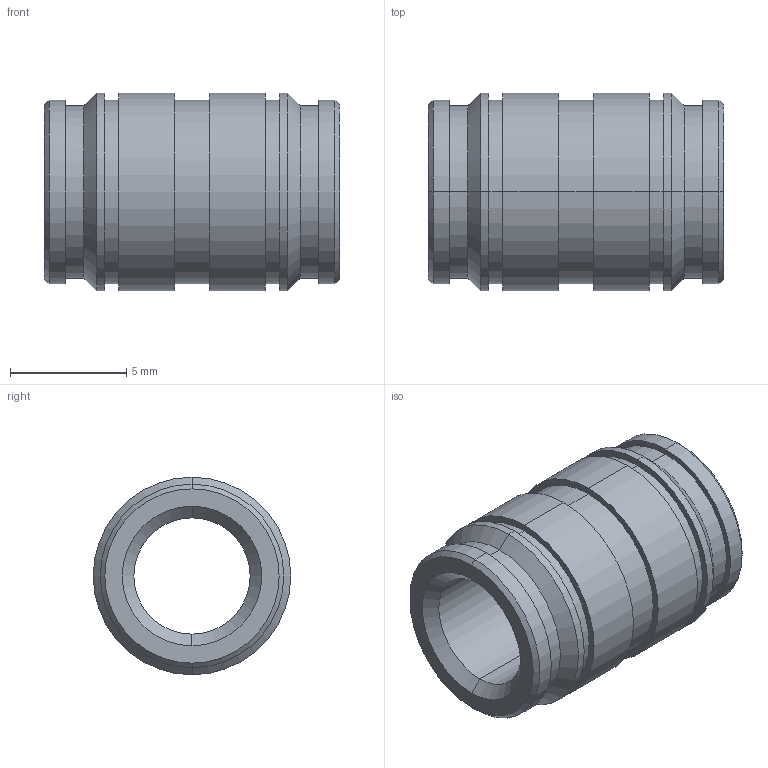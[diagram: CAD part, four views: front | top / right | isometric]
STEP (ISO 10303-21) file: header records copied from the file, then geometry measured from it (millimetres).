
FILE_DESCRIPTION (( 'STEP AP203' ), '1' );
FILE_NAME ('FSUK-DUO-M06-S.STEP', '2021-04-15T09:13:30', ( '' ), ( '' ), 'SwSTEP 2.0', 'SolidWorks 2021', '' );
FILE_SCHEMA (( 'CONFIG_CONTROL_DESIGN' ));
Length unit declared in the file: millimetre
Products named in the file (1): FSUK-DUO-M06-S
Bounding box: 12.7 x 8.5 x 8.5 mm (x, y, z)
Volume: 401.6 mm3; surface area: 636.8 mm2
Topology: 1 solids, 1 shells, 46 faces, 92 edges, 56 vertices
Faces by surface type: cylinder 24, cone 12, plane 10
Entity records: 1285 total; most frequent: DIRECTION 242, CARTESIAN_POINT 195, ORIENTED_EDGE 184, AXIS2_PLACEMENT_3D 103, EDGE_CURVE 92, VERTEX_POINT 56, CIRCLE 56, EDGE_LOOP 56
